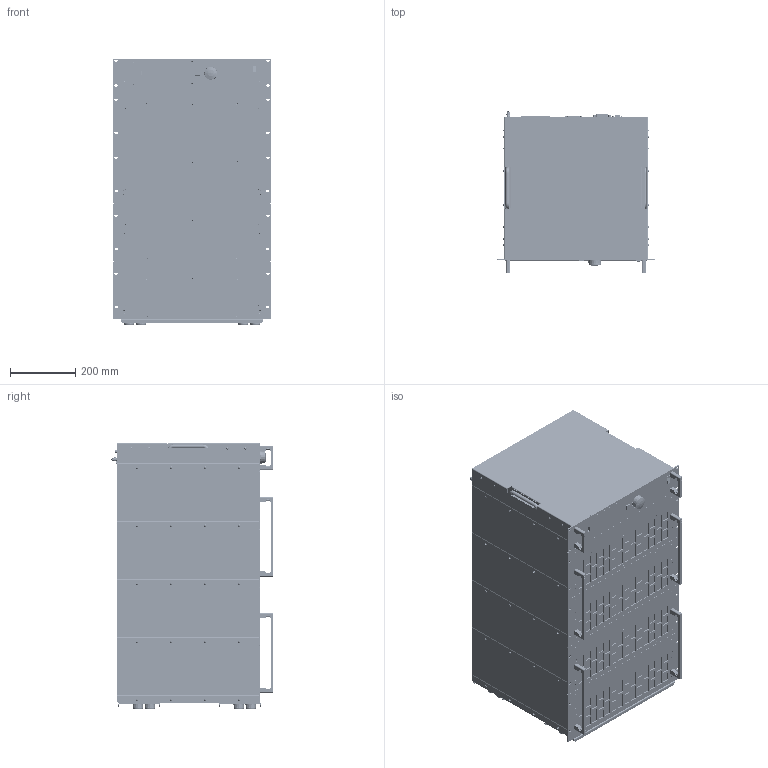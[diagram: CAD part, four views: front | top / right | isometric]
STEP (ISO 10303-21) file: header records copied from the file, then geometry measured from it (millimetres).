
FILE_DESCRIPTION(('STEP AP214'),'1');
FILE_NAME('ACL_M5_19Z_18HE_PH7_10.16-ST76_BRA_3D_02.step','2020-02-20T06:30:50',(' '),(' '),'Spatial InterOp 3D',' ',' ');
FILE_SCHEMA(('AUTOMOTIVE_DESIGN { 1 0 10303 214 1 1 1 1 }'));
Length unit declared in the file: millimetre
Products named in the file (20): 3158_6HE_ug-05_224; 3666_2HE_ug-05_055; *U404; *U405; *U406; *U407; *U408; *U409; *U410; 2078_ACL_IO Panel_02; 1962_ACL_Rückwand Steuerteil_mit_Druck_3D_03; *U441; *U476; *U477; *U478; *U480; *U481; *U482; AutoCreatedBlock_2435
Assembly tree (146 placements, depth 2):
  (unnamed)
    3158_6HE_ug-05_224  x4
    3666_2HE_ug-05_055  x2
    *U404  x2
    *U405
    *U406  x3
    *U407  x2
    *U408  x2
    *U409  x17
    *U410  x16
    2078_ACL_IO Panel_02  x3
    1962_ACL_Rückwand Steuerteil_mit_Druck_3D_03
    *U441  x4
    *U476  x24
    *U477  x18
    *U478  x24
    *U480  x8
    *U481  x6
    *U482  x8
    AutoCreatedBlock_2435
Bounding box: 482.6 x 497.65 x 817.05 mm (x, y, z)
Volume: 145065288.4 mm3; surface area: 7682246.9 mm2
Topology: 371 solids, 601 shells, 31094 faces, 77383 edges, 48449 vertices
Faces by surface type: plane 14133, cone 11012, cylinder 5154, sphere 354, torus 251, bspline 190
Entity records: 962354 total; most frequent: CARTESIAN_POINT 162559, DIRECTION 127650, ORIENTED_EDGE 121536, EDGE_CURVE 61292, AXIS2_PLACEMENT_3D 42664, LINE 42322, VECTOR 42322, VERTEX_POINT 38703
